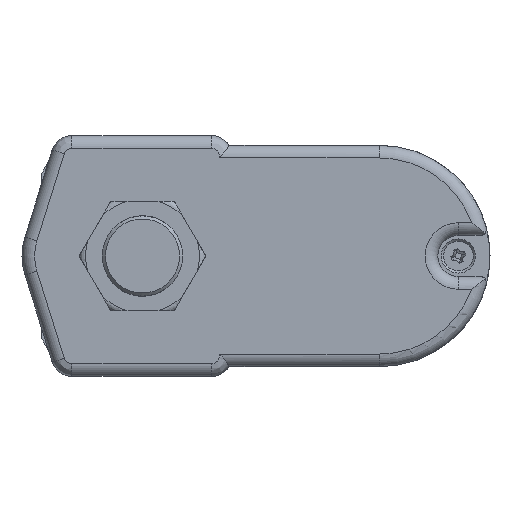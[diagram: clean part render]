
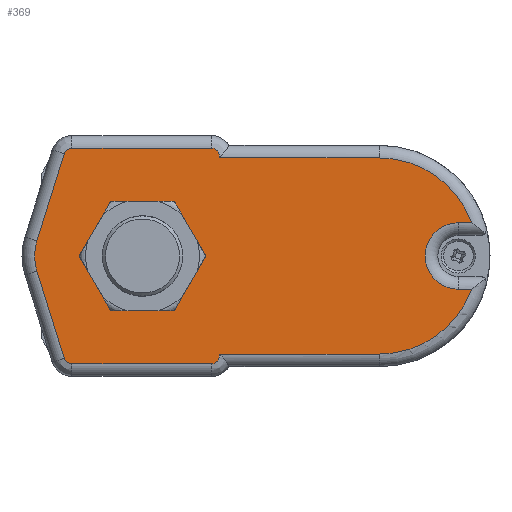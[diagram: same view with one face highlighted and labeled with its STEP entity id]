
A CAD part, left-side view. The second image highlights one B-rep face of the part: STEP entity #369.
In plain terms, the highlighted planar face has unit normal (-1, 0, 0).
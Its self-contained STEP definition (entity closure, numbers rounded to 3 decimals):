
#369 = ADVANCED_FACE( '', ( #762 ), #763, .F. );
#762 = FACE_OUTER_BOUND( '', #1646, .T. );
#763 = PLANE( '', #1647 );
#1646 = EDGE_LOOP( '', ( #2648, #2649, #2650, #2651, #2652, #2653, #2654, #2655, #2656, #2657, #2658, #2659, #2660, #2661, #2662, #2663, #2664, #2665 ) );
#1647 = AXIS2_PLACEMENT_3D( '', #2666, #2667, #2668 );
#2648 = ORIENTED_EDGE( '', *, *, #5463, .T. );
#2649 = ORIENTED_EDGE( '', *, *, #5429, .F. );
#2650 = ORIENTED_EDGE( '', *, *, #5464, .F. );
#2651 = ORIENTED_EDGE( '', *, *, #5465, .F. );
#2652 = ORIENTED_EDGE( '', *, *, #5466, .F. );
#2653 = ORIENTED_EDGE( '', *, *, #5452, .F. );
#2654 = ORIENTED_EDGE( '', *, *, #5457, .T. );
#2655 = ORIENTED_EDGE( '', *, *, #5467, .T. );
#2656 = ORIENTED_EDGE( '', *, *, #5468, .F. );
#2657 = ORIENTED_EDGE( '', *, *, #5469, .T. );
#2658 = ORIENTED_EDGE( '', *, *, #5470, .T. );
#2659 = ORIENTED_EDGE( '', *, *, #5471, .F. );
#2660 = ORIENTED_EDGE( '', *, *, #5462, .F. );
#2661 = ORIENTED_EDGE( '', *, *, #5472, .T. );
#2662 = ORIENTED_EDGE( '', *, *, #5447, .F. );
#2663 = ORIENTED_EDGE( '', *, *, #5455, .T. );
#2664 = ORIENTED_EDGE( '', *, *, #5438, .F. );
#2665 = ORIENTED_EDGE( '', *, *, #5437, .T. );
#2666 = CARTESIAN_POINT( '', ( 0., 74.9, 0. ) );
#2667 = DIRECTION( '', ( 1., 0., 0. ) );
#2668 = DIRECTION( '', ( 0., 0., -1. ) );
#5429 = EDGE_CURVE( '', #6323, #6325, #6326, .T. );
#5437 = EDGE_CURVE( '', #6332, #6339, #6341, .T. );
#5438 = EDGE_CURVE( '', #6332, #6342, #6343, .T. );
#5447 = EDGE_CURVE( '', #6357, #6354, #6359, .T. );
#5452 = EDGE_CURVE( '', #6367, #6361, #6369, .T. );
#5455 = EDGE_CURVE( '', #6357, #6342, #6373, .T. );
#5457 = EDGE_CURVE( '', #6367, #6375, #6377, .T. );
#5462 = EDGE_CURVE( '', #6384, #6379, #6386, .T. );
#5463 = EDGE_CURVE( '', #6339, #6325, #6387, .T. );
#5464 = EDGE_CURVE( '', #6388, #6323, #6389, .T. );
#5465 = EDGE_CURVE( '', #6390, #6388, #6391, .T. );
#5466 = EDGE_CURVE( '', #6361, #6390, #6392, .T. );
#5467 = EDGE_CURVE( '', #6375, #6393, #6394, .T. );
#5468 = EDGE_CURVE( '', #6395, #6393, #6396, .T. );
#5469 = EDGE_CURVE( '', #6395, #6397, #6398, .T. );
#5470 = EDGE_CURVE( '', #6397, #6399, #6400, .T. );
#5471 = EDGE_CURVE( '', #6379, #6399, #6401, .T. );
#5472 = EDGE_CURVE( '', #6384, #6354, #6402, .T. );
#6323 = VERTEX_POINT( '', #7823 );
#6325 = VERTEX_POINT( '', #7836 );
#6326 = LINE( '', #7837, #7838 );
#6332 = VERTEX_POINT( '', #7852 );
#6339 = VERTEX_POINT( '', #7884 );
#6341 = LINE( '', #7886, #7887 );
#6342 = VERTEX_POINT( '', #7888 );
#6343 = CIRCLE( '', #7889, 31. );
#6354 = VERTEX_POINT( '', #7915 );
#6357 = VERTEX_POINT( '', #7923 );
#6359 = LINE( '', #7925, #7926 );
#6361 = VERTEX_POINT( '', #7928 );
#6367 = VERTEX_POINT( '', #7952 );
#6369 = CIRCLE( '', #7954, 2.5 );
#6373 = LINE( '', #7976, #7977 );
#6375 = VERTEX_POINT( '', #7979 );
#6377 = LINE( '', #7981, #7982 );
#6379 = VERTEX_POINT( '', #7985 );
#6384 = VERTEX_POINT( '', #7991 );
#6386 = LINE( '', #7993, #7994 );
#6387 = CIRCLE( '', #7995, 10.5 );
#6388 = VERTEX_POINT( '', #7996 );
#6389 = CIRCLE( '', #7997, 31. );
#6390 = VERTEX_POINT( '', #7998 );
#6391 = LINE( '', #7999, #8000 );
#6392 = LINE( '', #8001, #8002 );
#6393 = VERTEX_POINT( '', #8003 );
#6394 = CIRCLE( '', #8004, 2.5 );
#6395 = VERTEX_POINT( '', #8005 );
#6396 = LINE( '', #8006, #8007 );
#6397 = VERTEX_POINT( '', #8008 );
#6398 = CIRCLE( '', #8009, 16. );
#6399 = VERTEX_POINT( '', #8010 );
#6400 = LINE( '', #8011, #8012 );
#6401 = CIRCLE( '', #8013, 2.5 );
#6402 = CIRCLE( '', #8014, 2.5 );
#7823 = CARTESIAN_POINT( '', ( 0., 104.068, -10.5 ) );
#7836 = CARTESIAN_POINT( '', ( 0., 99.9, -10.5 ) );
#7837 = CARTESIAN_POINT( '', ( 0., 125.3, -10.5 ) );
#7838 = VECTOR( '', #10529, 1000. );
#7852 = CARTESIAN_POINT( '', ( 0., 104.068, 10.5 ) );
#7884 = CARTESIAN_POINT( '', ( 0., 99.9, 10.5 ) );
#7886 = CARTESIAN_POINT( '', ( 0., 125.3, 10.5 ) );
#7887 = VECTOR( '', #10538, 1000. );
#7888 = CARTESIAN_POINT( '', ( 0., 74.9, 31. ) );
#7889 = AXIS2_PLACEMENT_3D( '', #10539, #10540, #10541 );
#7915 = CARTESIAN_POINT( '', ( 0., 24.31, 31.6 ) );
#7923 = CARTESIAN_POINT( '', ( 0., 24.31, 31. ) );
#7925 = CARTESIAN_POINT( '', ( 0., 24.31, -31.6 ) );
#7926 = VECTOR( '', #10556, 1000. );
#7928 = CARTESIAN_POINT( '', ( 0., 24.31, -31.6 ) );
#7952 = CARTESIAN_POINT( '', ( 0., 21.81, -34.1 ) );
#7954 = AXIS2_PLACEMENT_3D( '', #10563, #10564, #10565 );
#7976 = CARTESIAN_POINT( '', ( 0., 16.48, 31. ) );
#7977 = VECTOR( '', #10567, 1000. );
#7979 = CARTESIAN_POINT( '', ( 0., -22.328, -34.1 ) );
#7981 = CARTESIAN_POINT( '', ( 0., 21.81, -34.1 ) );
#7982 = VECTOR( '', #10571, 1000. );
#7985 = CARTESIAN_POINT( '', ( 0., -22.328, 34.1 ) );
#7991 = CARTESIAN_POINT( '', ( 0., 21.81, 34.1 ) );
#7993 = CARTESIAN_POINT( '', ( 0., 21.81, 34.1 ) );
#7994 = VECTOR( '', #10580, 1000. );
#7995 = AXIS2_PLACEMENT_3D( '', #10581, #10582, #10583 );
#7996 = CARTESIAN_POINT( '', ( 0., 74.9, -31. ) );
#7997 = AXIS2_PLACEMENT_3D( '', #10584, #10585, #10586 );
#7998 = CARTESIAN_POINT( '', ( 0., 24.31, -31. ) );
#7999 = CARTESIAN_POINT( '', ( 0., 16.48, -31. ) );
#8000 = VECTOR( '', #10587, 1000. );
#8001 = CARTESIAN_POINT( '', ( 0., 24.31, -31.6 ) );
#8002 = VECTOR( '', #10588, 1000. );
#8003 = CARTESIAN_POINT( '', ( 0., -24.713, -32.349 ) );
#8004 = AXIS2_PLACEMENT_3D( '', #10589, #10590, #10591 );
#8005 = CARTESIAN_POINT( '', ( 0., -33.365, -4.793 ) );
#8006 = CARTESIAN_POINT( '', ( 0., -33.365, -4.793 ) );
#8007 = VECTOR( '', #10592, 1000. );
#8008 = CARTESIAN_POINT( '', ( 0., -33.365, 4.793 ) );
#8009 = AXIS2_PLACEMENT_3D( '', #10593, #10594, #10595 );
#8010 = CARTESIAN_POINT( '', ( 0., -24.713, 32.349 ) );
#8011 = CARTESIAN_POINT( '', ( 0., -33.365, 4.793 ) );
#8012 = VECTOR( '', #10596, 1000. );
#8013 = AXIS2_PLACEMENT_3D( '', #10597, #10598, #10599 );
#8014 = AXIS2_PLACEMENT_3D( '', #10600, #10601, #10602 );
#10529 = DIRECTION( '', ( 0., -1., 0. ) );
#10538 = DIRECTION( '', ( 0., -1., 0. ) );
#10539 = CARTESIAN_POINT( '', ( 0., 74.9, 0. ) );
#10540 = DIRECTION( '', ( 1., 0., 0. ) );
#10541 = DIRECTION( '', ( 0., 0., -1. ) );
#10556 = DIRECTION( '', ( 0., 0., 1. ) );
#10563 = CARTESIAN_POINT( '', ( 0., 21.81, -31.6 ) );
#10564 = DIRECTION( '', ( 1., 0., 0. ) );
#10565 = DIRECTION( '', ( 0., 0., -1. ) );
#10567 = DIRECTION( '', ( 0., 1., 0. ) );
#10571 = DIRECTION( '', ( 0., -1., 0. ) );
#10580 = DIRECTION( '', ( 0., -1., 0. ) );
#10581 = CARTESIAN_POINT( '', ( 0., 99.9, 0. ) );
#10582 = DIRECTION( '', ( 1., 0., 0. ) );
#10583 = DIRECTION( '', ( 0., 0., -1. ) );
#10584 = CARTESIAN_POINT( '', ( 0., 74.9, 0. ) );
#10585 = DIRECTION( '', ( 1., 0., 0. ) );
#10586 = DIRECTION( '', ( 0., 0., -1. ) );
#10587 = DIRECTION( '', ( 0., 1., 0. ) );
#10588 = DIRECTION( '', ( 0., 0., 1. ) );
#10589 = CARTESIAN_POINT( '', ( 0., -22.328, -31.6 ) );
#10590 = DIRECTION( '', ( -1., 0., 0. ) );
#10591 = DIRECTION( '', ( 0., 0., 1. ) );
#10592 = DIRECTION( '', ( 0., 0.3, -0.954 ) );
#10593 = CARTESIAN_POINT( '', ( 0., -18.1, 0. ) );
#10594 = DIRECTION( '', ( -1., 0., 0. ) );
#10595 = DIRECTION( '', ( 0., 0., 1. ) );
#10596 = DIRECTION( '', ( 0., 0.3, 0.954 ) );
#10597 = CARTESIAN_POINT( '', ( 0., -22.328, 31.6 ) );
#10598 = DIRECTION( '', ( 1., 0., 0. ) );
#10599 = DIRECTION( '', ( 0., 0., -1. ) );
#10600 = CARTESIAN_POINT( '', ( 0., 21.81, 31.6 ) );
#10601 = DIRECTION( '', ( -1., 0., 0. ) );
#10602 = DIRECTION( '', ( 0., 0., 1. ) );
